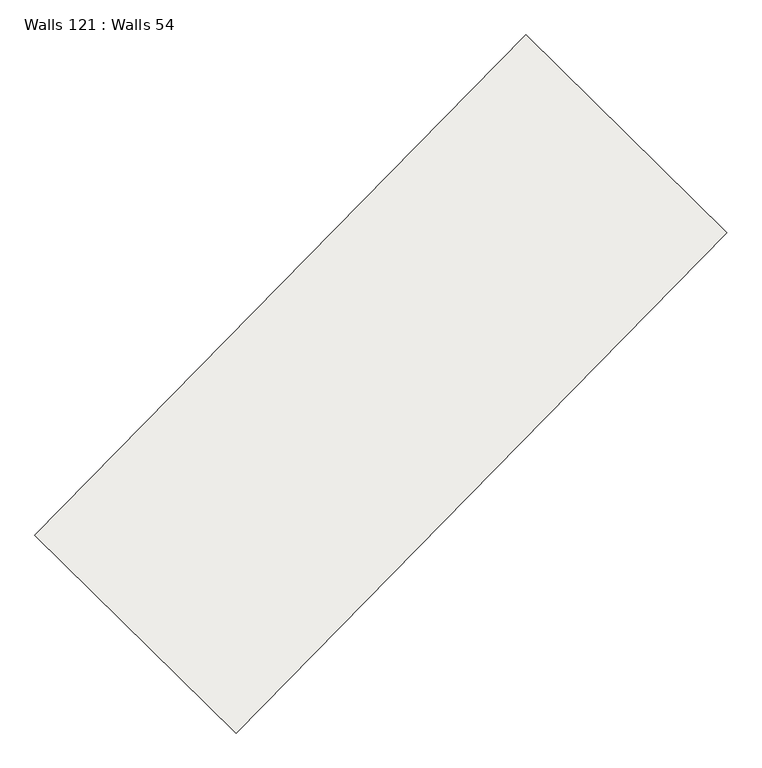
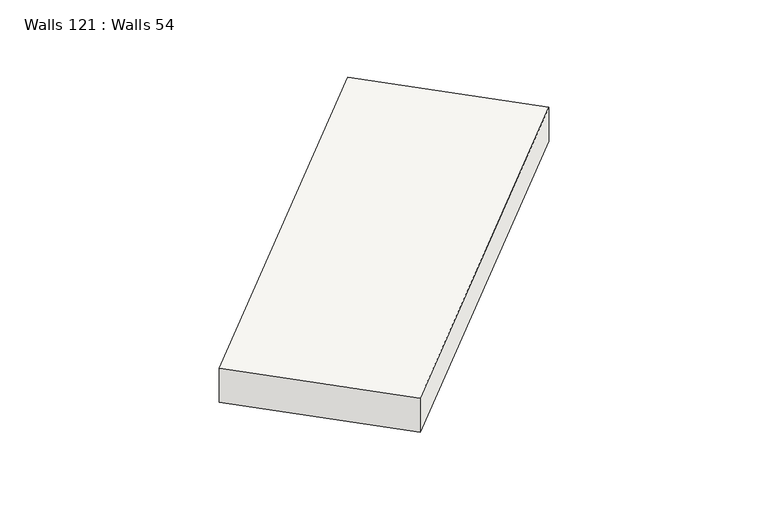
"""IFC4 building model written with IfcOpenShell, lengths in millimetres: slab geometry, Walls 121 : Walls 54."""

from ifc_helpers import new_model, si_unit, frame, origin, place, context, project, spatial, polyline, outline, extrude, source, transform, mapped, element, save


def walls_121_walls_54_4eb3d2a1(model_context):
    return source(origin(), model_context, "Body", "SweptSolid", [
        extrude(outline(polyline([(-350.0, 0.0), (350.0, 0.0), (260.0, -8699.9999994), (-440.0, -8699.9999994), (-350.0, 0.0)])), frame((-54864.034041, -215109.6495212, 637650.0), z_axis=(-0.7137361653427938, 0.7004146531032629, 0.0), x_axis=(0.0, 0.0, 1.0)), (0.0, 0.0, 1.0), 3499.999995),
    ])


if __name__ == "__main__":
    model = new_model("IFC4")
    model_context = context("Model", 3, world=origin())
    ifc_project = project(units=[si_unit("LENGTHUNIT", "METRE", prefix="MILLI")], contexts=[model_context])
    site = spatial("IfcSite", under=ifc_project)
    building = spatial("IfcBuilding", under=site)
    placement = place(None, origin())
    walls_121_walls_54_shape = walls_121_walls_54_4eb3d2a1(model_context)
    element("IfcSlab", 1, ObjectType="Walls 121 : Walls 54", at=placement, inside=building, context=model_context, shape_type="MappedRepresentation", body=[
        mapped(walls_121_walls_54_shape, transform((0.0, 0.0, 0.0), x_axis=(1.0, 0.0, 0.0), y_axis=(0.0, 1.0, 0.0), z_axis=(0.0, 0.0, 1.0))),
    ])
    save(model, "model.ifc")
